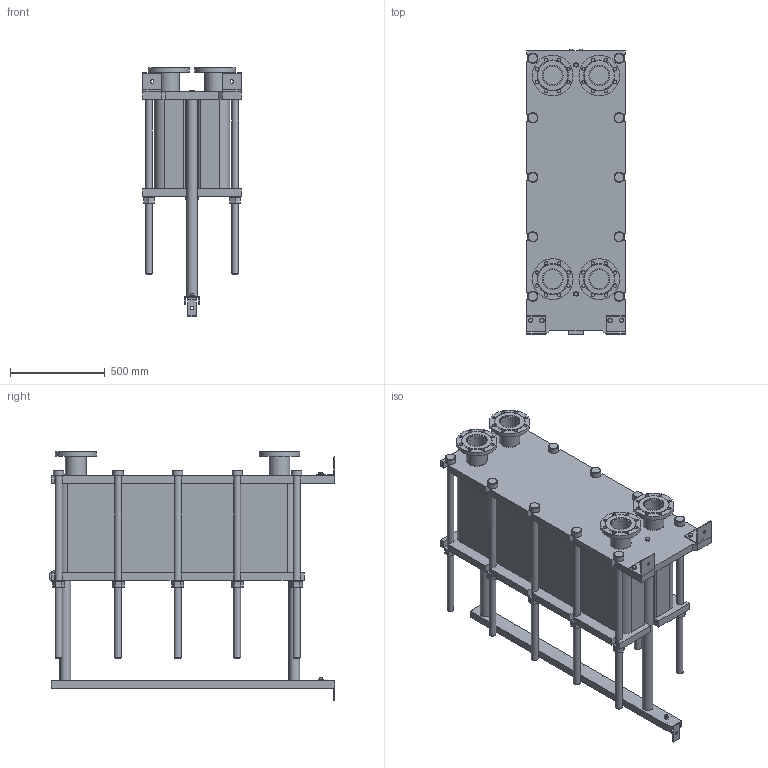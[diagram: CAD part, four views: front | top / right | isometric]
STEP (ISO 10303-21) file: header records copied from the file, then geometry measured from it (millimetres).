
FILE_DESCRIPTION(/* description */ (''),/* implementation_level */ '2;1');
FILE_NAME(/* name */ 'C:\Users\zhuro\Desktop\ENCO\TO\ЭН-04\ЭН-0,5-04-137-1.stp',/* time_stamp */ '2022-06-06T10:57:42+03:00',/* author */ ('zhuro'),/* organization */ (''),/* preprocessor_version */ 'ST-DEVELOPER v18.1',/* originating_system */ 'Autodesk Inventor 2022',/* authorisation */ '');
FILE_SCHEMA (('AUTOMOTIVE_DESIGN { 1 0 10303 214 3 1 1 }'));
Length unit declared in the file: millimetre
Products named in the file (1): ЭН-0,5-04-137-1
Bounding box: 520 x 1510 x 1318.5 mm (x, y, z)
Volume: 309407323.4 mm3; surface area: 9168895.4 mm2
Topology: 45 solids, 45 shells, 668 faces, 1611 edges, 1048 vertices
Faces by surface type: plane 457, cylinder 166, cone 39, torus 6
Full cylindrical faces by diameter (mm): 8 x4, 10 x2, 16 x8, 18 x35, 36 x25, 40 x2, 42 x1, 45 x4, 54 x10, 57 x2, 60 x10, 68 x2, 100 x4, 110 x8, 215 x4
Entity records: 23607 total; most frequent: CARTESIAN_POINT 7348, DIRECTION 3371, ORIENTED_EDGE 3142, EDGE_CURVE 1571, AXIS2_PLACEMENT_3D 1199, VERTEX_POINT 1044, LINE 973, VECTOR 973
